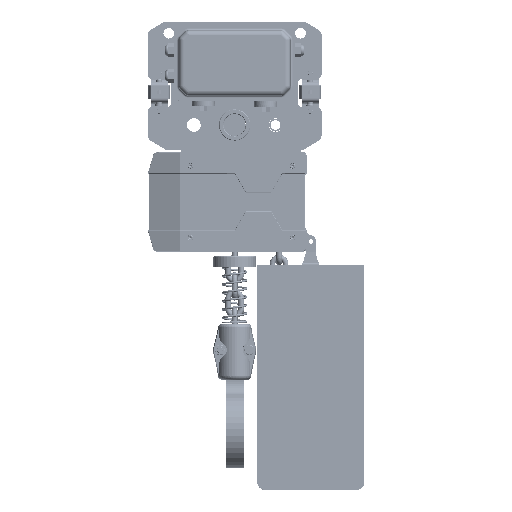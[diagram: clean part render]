
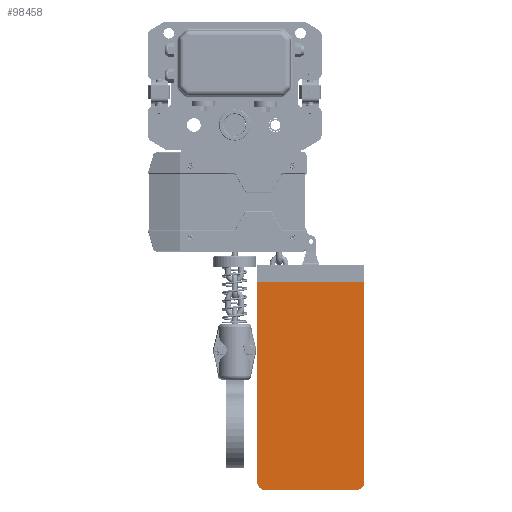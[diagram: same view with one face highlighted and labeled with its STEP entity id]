
A CAD part, top view. The second image highlights one B-rep face of the part: STEP entity #98458.
In plain terms, the highlighted planar face has unit normal (0, 0, 1).
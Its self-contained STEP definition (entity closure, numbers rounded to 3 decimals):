
#6339=LINE('',#181438,#14001);
#6440=LINE('',#181940,#14102);
#6446=LINE('',#181956,#14108);
#6447=LINE('',#181960,#14109);
#14001=VECTOR('',#124983,1000.);
#14102=VECTOR('',#125224,1000.);
#14108=VECTOR('',#125238,1000.);
#14109=VECTOR('',#125243,1000.);
#18784=PLANE('',#106665);
#40844=ORIENTED_EDGE('',*,*,#60550,.F.);
#40845=ORIENTED_EDGE('',*,*,#60695,.F.);
#40846=ORIENTED_EDGE('',*,*,#60696,.T.);
#40847=ORIENTED_EDGE('',*,*,#60697,.T.);
#40848=ORIENTED_EDGE('',*,*,#60698,.T.);
#40849=ORIENTED_EDGE('',*,*,#60687,.T.);
#60550=EDGE_CURVE('',#71910,#71911,#6339,.T.);
#60687=EDGE_CURVE('',#71993,#71911,#6440,.T.);
#60695=EDGE_CURVE('',#71998,#71910,#6446,.T.);
#60696=EDGE_CURVE('',#71998,#71999,#77582,.T.);
#60697=EDGE_CURVE('',#71999,#72000,#6447,.T.);
#60698=EDGE_CURVE('',#72000,#71993,#77583,.T.);
#71910=VERTEX_POINT('',#181439);
#71911=VERTEX_POINT('',#181440);
#71993=VERTEX_POINT('',#181941);
#71998=VERTEX_POINT('',#181955);
#71999=VERTEX_POINT('',#181959);
#72000=VERTEX_POINT('',#181961);
#77582=CIRCLE('',#106666,15.);
#77583=CIRCLE('',#106667,15.);
#83544=EDGE_LOOP('',(#40844,#40845,#40846,#40847,#40848,#40849));
#90526=FACE_BOUND('',#83544,.T.);
#98458=ADVANCED_FACE('',(#90526),#18784,.T.);
#106665=AXIS2_PLACEMENT_3D('',#181957,#125239,#125240);
#106666=AXIS2_PLACEMENT_3D('',#181958,#125241,#125242);
#106667=AXIS2_PLACEMENT_3D('',#181962,#125244,#125245);
#124983=DIRECTION('',(1.,0.,0.));
#125224=DIRECTION('',(0.,1.,0.));
#125238=DIRECTION('',(0.,1.,0.));
#125239=DIRECTION('',(0.,0.,1.));
#125240=DIRECTION('',(-1.,0.,0.));
#125241=DIRECTION('',(0.,0.,1.));
#125242=DIRECTION('',(1.,0.,0.));
#125243=DIRECTION('',(1.,0.,0.));
#125244=DIRECTION('',(0.,0.,1.));
#125245=DIRECTION('',(1.,0.,0.));
#181438=CARTESIAN_POINT('',(1744.812,143.396,196.225));
#181439=CARTESIAN_POINT('',(1714.812,143.396,196.225));
#181440=CARTESIAN_POINT('',(1924.312,143.396,196.225));
#181940=CARTESIAN_POINT('',(1924.312,170.396,196.225));
#181941=CARTESIAN_POINT('',(1924.312,-249.604,196.225));
#181955=CARTESIAN_POINT('',(1714.812,-249.604,196.225));
#181956=CARTESIAN_POINT('',(1714.812,941.888,196.225));
#181957=CARTESIAN_POINT('',(1744.812,170.396,196.225));
#181958=CARTESIAN_POINT('',(1729.812,-249.604,196.225));
#181959=CARTESIAN_POINT('',(1729.812,-264.604,196.225));
#181960=CARTESIAN_POINT('',(1742.812,-264.604,196.225));
#181961=CARTESIAN_POINT('',(1909.312,-264.604,196.225));
#181962=CARTESIAN_POINT('',(1909.312,-249.604,196.225));
